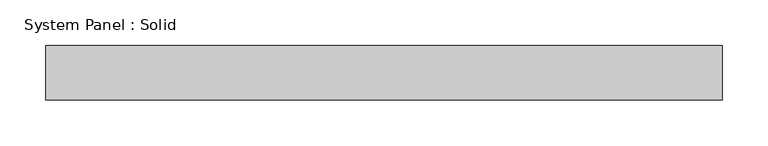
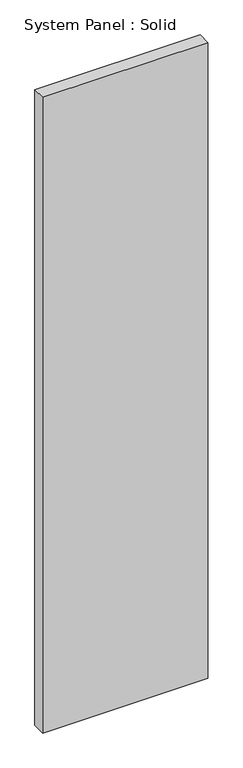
"""IFC4 building model written with IfcOpenShell, lengths in millimetres: plate geometry, System Panel : Solid."""

import ifcopenshell
import ifcopenshell.guid

model = None  # the IFC model being written
_history = None  # IfcOwnerHistory: only IFC2X3 demands one
_inside = {}  # id of a spatial element -> (the spatial element, [elements in it])
_under = {}  # id of a project, library or spatial element -> (it, [spatial elements below it])
_declared = {}  # id of a project -> (the project, [libraries it declares])
_typed = {}  # id of a type object -> (the type object, [elements of that type])
_made_of = {}  # id of a material, layer set ... -> (it, [elements and type objects made of it])


def new_model(schema):
    """Start an empty IFC model of exactly this schema.

    Asked for "IFC4X3", IfcOpenShell would pick the latest addendum, in which some entities
    have other attributes; the version numbers below select the first issue.
    IFC2X3 requires an IfcOwnerHistory on every rooted entity: one is made here for all.
    """
    global model, _history
    if schema == "IFC4X3":
        model = ifcopenshell.file(schema_version=(4, 3, 0, 0))
    else:
        model = ifcopenshell.file(schema=schema)
    _inside.clear()
    _under.clear()
    _declared.clear()
    _typed.clear()
    _made_of.clear()
    _history = None
    if model.schema == "IFC2X3":
        org = make("IfcOrganization", Name="unknown")
        user = make(
            "IfcPersonAndOrganization",
            ThePerson=make("IfcPerson", FamilyName="unknown"),
            TheOrganization=org,
        )
        app = make(
            "IfcApplication",
            ApplicationDeveloper=org,
            Version="unknown",
            ApplicationFullName="unknown",
            ApplicationIdentifier="unknown",
        )
        _history = make(
            "IfcOwnerHistory",
            OwningUser=user,
            OwningApplication=app,
            ChangeAction="ADDED",
            CreationDate=0,
        )
    return model


def make(cls, **values):
    """One entity of the class cls with the attributes given. An attribute that is None is left unset."""
    return model.create_entity(
        cls, **{name: value for name, value in values.items() if value is not None}
    )


def rooted(cls, **values):
    """An entity with a GlobalId (a new one), such as an element, a storey or a relation."""
    return make(cls, GlobalId=ifcopenshell.guid.new(), OwnerHistory=_history, **values)


def si_unit(unit_type, name, prefix=None):
    """IfcSIUnit, for example si_unit("LENGTHUNIT", "METRE", prefix="MILLI")."""
    return make("IfcSIUnit", UnitType=unit_type, Prefix=prefix, Name=name)


def assignment(units):
    """IfcUnitAssignment: the units of a project."""
    return None if units is None else make("IfcUnitAssignment", Units=units)


def point(xyz):
    """IfcCartesianPoint."""
    return None if xyz is None else make("IfcCartesianPoint", Coordinates=xyz)


def direction(xyz):
    """IfcDirection."""
    return None if xyz is None else make("IfcDirection", DirectionRatios=xyz)


def frame(location, z_axis=None, x_axis=None):
    """IfcAxis2Placement3D, a coordinate frame: its origin and axes. An axis left out is left unset."""
    return make(
        "IfcAxis2Placement3D",
        Location=point(location),
        Axis=direction(z_axis),
        RefDirection=direction(x_axis),
    )


def origin():
    """The frame at (0, 0, 0) with its axes left unset."""
    return frame((0.0, 0.0, 0.0))


def origin_with_axes():
    """The frame at (0, 0, 0) with the z axis (0, 0, 1) and the x axis (1, 0, 0) written out."""
    return frame((0.0, 0.0, 0.0), z_axis=(0.0, 0.0, 1.0), x_axis=(1.0, 0.0, 0.0))


def place(relative_to, where):
    """IfcLocalPlacement: puts the frame where relative to a parent placement (None: the world)."""
    return make(
        "IfcLocalPlacement", PlacementRelTo=relative_to, RelativePlacement=where
    )


def context(
    kind, dimensions, precision=None, world=None, true_north=None, identifier=None
):
    """IfcGeometricRepresentationContext, for example the 3D "Model" context."""
    return make(
        "IfcGeometricRepresentationContext",
        ContextIdentifier=identifier,
        ContextType=kind,
        CoordinateSpaceDimension=dimensions,
        Precision=precision,
        WorldCoordinateSystem=world,
        TrueNorth=true_north,
    )


def project(units=None, contexts=None):
    """IfcProject with its units and contexts."""
    return rooted(
        "IfcProject",
        Name="project",
        RepresentationContexts=contexts,
        UnitsInContext=assignment(units),
    )


def spatial(cls, under=None, at=None, **own):
    """A site, building, storey or space (cls), placed at a placement, below another one or the project."""
    s = rooted(cls, ObjectPlacement=at, **own)
    if under is not None:
        _under.setdefault(under.id(), (under, []))[1].append(s)
    return s


def polyline(points):
    """IfcPolyline through the points."""
    return make("IfcPolyline", Points=[point(p) for p in points])


def outline(outer, holes=None, kind="AREA"):
    """IfcArbitraryClosedProfileDef: a profile drawn as a closed curve; with holes, ...WithVoids."""
    if holes is None:
        return make("IfcArbitraryClosedProfileDef", ProfileType=kind, OuterCurve=outer)
    return make(
        "IfcArbitraryProfileDefWithVoids",
        ProfileType=kind,
        OuterCurve=outer,
        InnerCurves=holes,
    )


def extrude(swept, where, along, depth):
    """IfcExtrudedAreaSolid: the profile swept, set in the frame where, extruded along a direction by depth."""
    return make(
        "IfcExtrudedAreaSolid",
        SweptArea=swept,
        Position=where,
        ExtrudedDirection=direction(along),
        Depth=depth,
    )


def shape(context_of_items, identifier, shape_type, items):
    """IfcShapeRepresentation: the items that make up one representation, for example the "Body"."""
    return make(
        "IfcShapeRepresentation",
        ContextOfItems=context_of_items,
        RepresentationIdentifier=identifier,
        RepresentationType=shape_type,
        Items=items,
    )


def source(mapping_origin, context_of_items, identifier, shape_type, items):
    """IfcRepresentationMap: a shape defined once, which mapped items show again and again."""
    return make(
        "IfcRepresentationMap",
        MappingOrigin=mapping_origin,
        MappedRepresentation=shape(context_of_items, identifier, shape_type, items),
    )


def transform(
    local_origin,
    x_axis=None,
    y_axis=None,
    z_axis=None,
    scale=None,
    scale2=None,
    scale3=None,
    uniform=True,
):
    """IfcCartesianTransformationOperator3D, or its non-uniform kind. x_axis, y_axis, z_axis: its Axis1, 2, 3."""
    if uniform:
        return make(
            "IfcCartesianTransformationOperator3D",
            Axis1=direction(x_axis),
            Axis2=direction(y_axis),
            LocalOrigin=point(local_origin),
            Scale=scale,
            Axis3=direction(z_axis),
        )
    return make(
        "IfcCartesianTransformationOperator3DnonUniform",
        Axis1=direction(x_axis),
        Axis2=direction(y_axis),
        LocalOrigin=point(local_origin),
        Scale=scale,
        Axis3=direction(z_axis),
        Scale2=scale2,
        Scale3=scale3,
    )


def mapped(mapping_source, mapping_target):
    """IfcMappedItem: shows the shape of a source again, moved by a transform."""
    return make(
        "IfcMappedItem", MappingSource=mapping_source, MappingTarget=mapping_target
    )


def made_of(thing, what):
    """Note that an element or type object is made of a material, layer set ...; save() writes the relation."""
    if what is not None:
        _made_of.setdefault(what.id(), (what, []))[1].append(thing)
    return thing


def element(
    cls,
    number,
    at=None,
    inside=None,
    cuts=None,
    type_object=None,
    material=None,
    context=None,
    identifier="Body",
    shape_type=None,
    held_by="IfcProductDefinitionShape",
    body=None,
    shapes=None,
    **own,
):
    """One element of the class cls, such as IfcWall. Its Tag is "e" and its number.

    at: its placement. inside: the storey or other place that contains it. cuts: it is an
    opening in that element (IfcRelVoidsElement). A single representation is given by context,
    identifier, shape_type and body (its items); several are given by shapes. held_by: the class
    of the entity that holds the representations. save() writes the other relations.
    """
    e = rooted(cls, Tag="e%d" % number, ObjectPlacement=at, **own)
    if body is not None:
        shapes = [shape(context, identifier, shape_type, body)]
    if shapes is not None:
        e.Representation = make(held_by, Representations=shapes)
    if inside is not None:
        _inside.setdefault(inside.id(), (inside, []))[1].append(e)
    if cuts is not None:
        rooted(
            "IfcRelVoidsElement", RelatingBuildingElement=cuts, RelatedOpeningElement=e
        )
    if type_object is not None:
        _typed.setdefault(type_object.id(), (type_object, []))[1].append(e)
    return made_of(e, material)


def aggregate(whole, parts):
    """IfcRelAggregates: a whole, such as a stair, and the parts it consists of."""
    return rooted("IfcRelAggregates", RelatingObject=whole, RelatedObjects=parts)


def save(model, path):
    """Write the relations noted so far, then the file.

    IfcRelAggregates (storeys below a building ...), IfcRelContainedInSpatialStructure (elements
    in a storey), IfcRelDefinesByType, IfcRelAssociatesMaterial and IfcRelDeclares: one each for
    every whole, place, type object, material and project.
    """
    for whole, parts in _under.values():
        aggregate(whole, parts)
    for where, things in _inside.values():
        rooted(
            "IfcRelContainedInSpatialStructure",
            RelatedElements=things,
            RelatingStructure=where,
        )
    for kind, things in _typed.values():
        rooted("IfcRelDefinesByType", RelatedObjects=things, RelatingType=kind)
    for what, things in _made_of.values():
        rooted("IfcRelAssociatesMaterial", RelatedObjects=things, RelatingMaterial=what)
    for by, libraries in _declared.values():
        rooted("IfcRelDeclares", RelatingContext=by, RelatedDefinitions=libraries)
    model.write(path)


def system_panel_solid_d14ca108(model_context):
    return source(origin(), model_context, "Body", "SweptSolid", [
        extrude(outline(polyline([(371.1991002, -49.5), (-371.1991002, -49.5), (-371.1991002, 10.5), (371.1991002, 10.5), (371.1991002, -49.5)])), origin_with_axes(), (0.0, 0.0, 1.0), 3018.3328001),
    ])


if __name__ == "__main__":
    model = new_model("IFC4")
    model_context = context("Model", 3, world=origin())
    ifc_project = project(units=[si_unit("LENGTHUNIT", "METRE", prefix="MILLI")], contexts=[model_context])
    site = spatial("IfcSite", under=ifc_project)
    building = spatial("IfcBuilding", under=site)
    placement = place(None, origin())
    system_panel_solid_shape = system_panel_solid_d14ca108(model_context)
    element("IfcPlate", 1, ObjectType="System Panel : Solid", at=placement, inside=building, context=model_context, shape_type="MappedRepresentation", body=[
        mapped(system_panel_solid_shape, transform((0.0, 0.0, 0.0), x_axis=(1.0, 0.0, 0.0), y_axis=(0.0, 1.0, 0.0), z_axis=(0.0, 0.0, 1.0))),
    ])
    save(model, "model.ifc")
